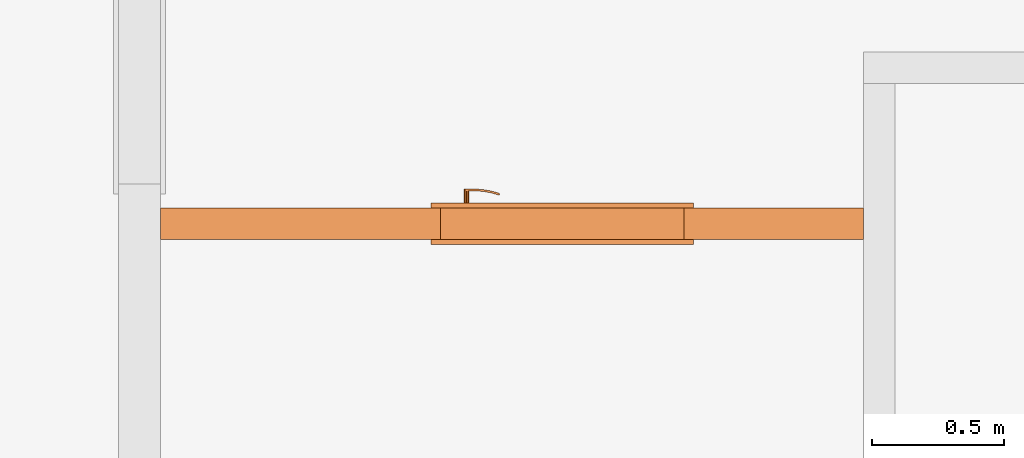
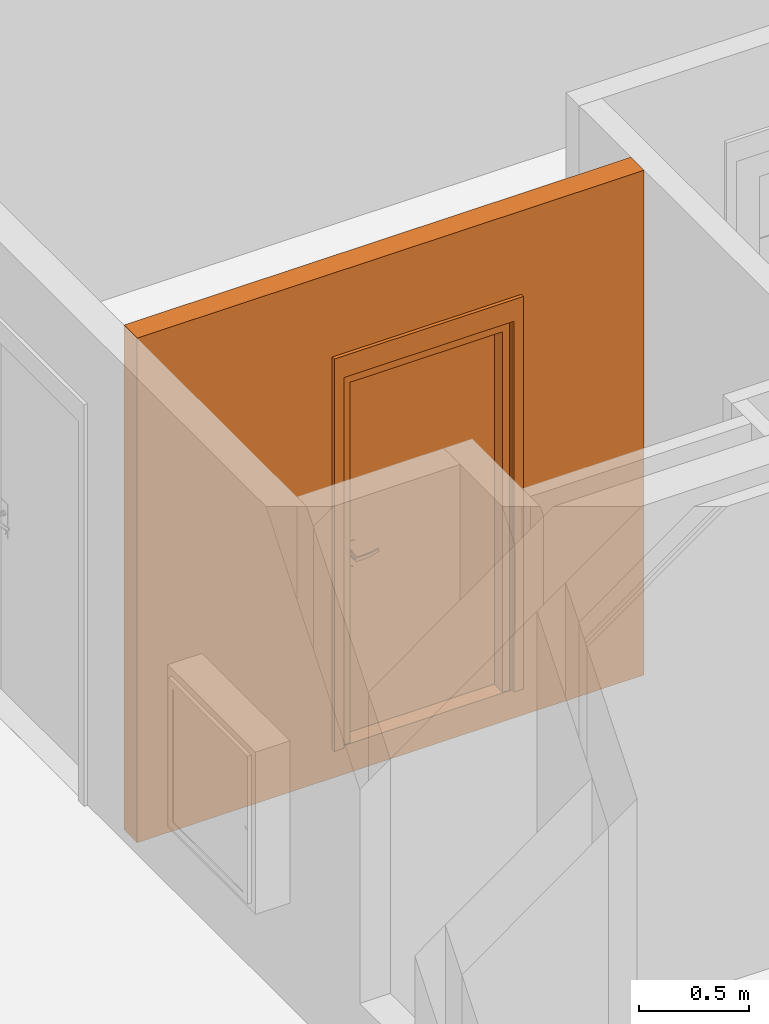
# One storey, part 30 of 64: 2 proxies, 1 opening.
"""IFC2X3 building model written with IfcOpenShell, lengths in millimetres."""

from ifc_helpers import new_model, entity, si_unit, converted_unit, derived_unit, money_unit, direction, frame, origin_with_axes, origin_2d_with_axis, place, context, subcontext, project, spatial, rectangle, extrude, open_shell, faceted_brep, surface_model, source, transform, mapped, material, type_object, element, fill, save


model = new_model("IFC2X3")

# Units and contexts
model_context = context("Model", 3, precision=0.01, world=origin_with_axes(), true_north=direction((0.34421633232, 0.938890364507)))
body_context = subcontext(model_context, "Body", "Model", "MODEL_VIEW")
ifc_project = project(units=[si_unit("LENGTHUNIT", "METRE", prefix="MILLI"), si_unit("AREAUNIT", "SQUARE_METRE"), si_unit("VOLUMEUNIT", "CUBIC_METRE"), converted_unit("PLANEANGLEUNIT", "DEGREE", entity("IfcPlaneAngleMeasure", 0.0174532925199), si_unit("PLANEANGLEUNIT", "RADIAN"), dimensions=[0, 0, 0, 0, 0, 0, 0]), si_unit("SOLIDANGLEUNIT", "STERADIAN"), money_unit("USD"), converted_unit("TIMEUNIT", "Year", entity("IfcTimeMeasure", 31556926.0), si_unit("TIMEUNIT", "SECOND"), dimensions=[0, 0, 1, 0, 0, 0, 0]), si_unit("MASSUNIT", "GRAM", prefix="KILO"), si_unit("THERMODYNAMICTEMPERATUREUNIT", "DEGREE_CELSIUS"), si_unit("LUMINOUSINTENSITYUNIT", "LUMEN"), si_unit("ENERGYUNIT", "JOULE", prefix="MEGA"), derived_unit("THERMALCONDUCTANCEUNIT", [(si_unit("POWERUNIT", "WATT"), 1), (si_unit("LENGTHUNIT", "METRE"), -1), (si_unit("THERMODYNAMICTEMPERATUREUNIT", "KELVIN"), -1)]), derived_unit("SPECIFICHEATCAPACITYUNIT", [(si_unit("ENERGYUNIT", "JOULE"), 1), (si_unit("MASSUNIT", "GRAM", prefix="KILO"), -1), (si_unit("THERMODYNAMICTEMPERATUREUNIT", "KELVIN"), -1)]), derived_unit("MASSDENSITYUNIT", [(si_unit("MASSUNIT", "GRAM", prefix="KILO"), 1), (si_unit("VOLUMEUNIT", "CUBIC_METRE"), -1)])], contexts=[model_context])

# Site, building, storey
site_placement = place(None, origin_with_axes())
site = spatial("IfcSite", under=ifc_project, at=site_placement, Name="USTRONIE MORSKIE", CompositionType="ELEMENT")
building_placement = place(site_placement, origin_with_axes())
building = spatial("IfcBuilding", under=site, at=building_placement, Name="Budynek", CompositionType="ELEMENT")
storey_placement = place(building_placement, frame((0.0, 0.0, 7000.0), z_axis=(0.0, 0.0, 1.0), x_axis=(1.0, 0.0, 0.0)))
storey = spatial("IfcBuildingStorey", under=building, at=storey_placement, Name="PIĘTRO 2", CompositionType="ELEMENT", Elevation=7000.0)

# Proxies, opening
ifc_material = material(Name="Bloczki silikatowe")
building_element_proxy_type_1 = type_object("IfcBuildingElementProxyType", Name="Bloczki silikatowe 120", PredefinedType="NOTDEFINED")
proxy_1_placement = place(storey_placement, frame((420917.920919, 729161.218596, -160.0), z_axis=(0.0, 0.0, 1.0), x_axis=(-1.0, 0.0, 0.0)))
proxy_1 = element("IfcBuildingElementProxy", 1, at=proxy_1_placement, inside=storey, type_object=building_element_proxy_type_1, material=ifc_material, Name="SW-04", context=body_context, shape_type="Brep", body=[
    faceted_brep([(2720.0, -59.9999999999, 2800.0), (2720.0, 59.9999999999, 2800.0), (60.0, 59.9999999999, 2800.0), (60.0, -59.9999999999, 2800.0), (2720.0, -59.9999999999, 0.0), (2720.0, 59.9999999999, 0.0), (60.0, 59.9999999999, 0.0), (60.0, -59.9999999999, 0.0)], [[[0, 1, 2, 3]], [[1, 0, 4, 5]], [[1, 5, 6, 2]], [[7, 3, 2, 6]], [[4, 0, 3, 7]], [[5, 4, 7, 6]]]),
])
opening_placement = place(proxy_1_placement, frame((1200.0, 0.0, 160.0), z_axis=(0.0, 0.0, 1.0), x_axis=(1.0, 0.0, 0.0)))
opening = element("IfcOpeningElement", 2, at=opening_placement, cuts=proxy_1, Name="Dw.4", context=body_context, shape_type="SweptSolid", body=[
    extrude(rectangle(XDim=920.0, YDim=2070.0, at=origin_2d_with_axis()), frame((0.0, 120.0, 1035.0), z_axis=(0.0, -1.0, 0.0), x_axis=(-1.0, 0.0, 0.0)), (0.0, 0.0, 1.0), 360.0),
    extrude(rectangle(XDim=994.0, YDim=2177.0, at=origin_2d_with_axis()), frame((0.0, 60.0000000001, 1088.5), z_axis=(0.0, -1.0, 0.0), x_axis=(-1.0, 0.0, 0.0)), (0.0, 0.0, -1.0), 120.0),
    extrude(rectangle(XDim=994.0, YDim=2177.0, at=origin_2d_with_axis()), frame((0.0, -59.9999999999, 1088.5), z_axis=(0.0, 1.0, 0.0), x_axis=(-1.0, 0.0, 0.0)), (0.0, 0.0, -1.0), 120.0),
])
building_element_proxy_type_2 = type_object("IfcBuildingElementProxyType", Name="Drzwi 23", PredefinedType="NOTDEFINED")
shared_shape = source(origin_with_axes(), body_context, "Body", "SurfaceModel", [
    faceted_brep([(-460.0, -115.0, 0.0), (-435.0, -115.0, 0.0), (-435.0, -120.0, 0.0), (-460.0, -120.0, 0.0), (-460.0, -115.0, 2070.0), (-435.0, -115.0, 2045.0), (-435.0, -120.0, 2045.0), (-460.0, -120.0, 2070.0)], [[[0, 1, 2, 3]], [[0, 4, 5, 1]], [[1, 5, 6, 2]], [[3, 2, 6, 7]], [[4, 0, 3, 7]], [[5, 4, 7, 6]]]),
    faceted_brep([(460.0, -115.0, 2070.0), (435.0, -115.0, 2045.0), (435.0, -120.0, 2045.0), (460.0, -120.0, 2070.0), (460.0, -115.0, 0.0), (435.0, -115.0, 0.0), (435.0, -120.0, 0.0), (460.0, -120.0, 0.0)], [[[0, 1, 2, 3]], [[0, 4, 5, 1]], [[1, 5, 6, 2]], [[3, 2, 6, 7]], [[4, 0, 3, 7]], [[5, 4, 7, 6]]]),
    faceted_brep([(-435.0, -115.0, 2045.0), (435.0, -115.0, 2045.0), (435.0, -120.0, 2045.0), (-435.0, -120.0, 2045.0), (-460.0, -115.0, 2070.0), (460.0, -115.0, 2070.0), (460.0, -120.0, 2070.0), (-460.0, -120.0, 2070.0)], [[[0, 1, 2, 3]], [[0, 4, 5, 1]], [[1, 5, 6, 2]], [[3, 2, 6, 7]], [[4, 0, 3, 7]], [[5, 4, 7, 6]]]),
    faceted_brep([(-497.0, -139.0, 0.0), (-497.0, -120.0, 0.0), (-447.0, -120.0, 0.0), (-447.0, -139.0, 0.0), (-497.0, -139.0, 2177.0), (-497.0, -120.0, 2177.0), (-447.0, -120.0, 2057.0), (-447.0, -139.0, 2057.0)], [[[0, 1, 2, 3]], [[4, 5, 1, 0]], [[1, 5, 6, 2]], [[3, 2, 6, 7]], [[0, 3, 7, 4]], [[7, 6, 5, 4]]]),
    faceted_brep([(497.0, -139.0, 2177.0), (497.0, -120.0, 2177.0), (447.0, -120.0, 2057.0), (447.0, -139.0, 2057.0), (497.0, -139.0, 0.0), (497.0, -120.0, 0.0), (447.0, -120.0, 0.0), (447.0, -139.0, 0.0)], [[[0, 1, 2, 3]], [[4, 5, 1, 0]], [[1, 5, 6, 2]], [[3, 2, 6, 7]], [[0, 3, 7, 4]], [[7, 6, 5, 4]]]),
    faceted_brep([(-497.0, -139.0, 2177.0), (-497.0, -120.0, 2177.0), (-447.0, -120.0, 2057.0), (-447.0, -139.0, 2057.0), (497.0, -139.0, 2177.0), (497.0, -120.0, 2177.0), (447.0, -120.0, 2057.0), (447.0, -139.0, 2057.0)], [[[0, 1, 2, 3]], [[4, 5, 1, 0]], [[1, 5, 6, 2]], [[3, 2, 6, 7]], [[0, 3, 7, 4]], [[7, 6, 5, 4]]]),
    faceted_brep([(-497.0, 19.0, 0.0), (-447.0, 19.0, 0.0), (-447.0, 0.0, 0.0), (-497.0, 0.0, 0.0), (-497.0, 19.0, 2177.0), (-447.0, 19.0, 2057.0), (-447.0, 0.0, 2057.0), (-497.0, 0.0, 2177.0)], [[[0, 1, 2, 3]], [[0, 4, 5, 1]], [[1, 5, 6, 2]], [[3, 2, 6, 7]], [[4, 0, 3, 7]], [[5, 4, 7, 6]]]),
    faceted_brep([(497.0, 19.0, 2177.0), (447.0, 19.0, 2057.0), (447.0, 0.0, 2057.0), (497.0, 0.0, 2177.0), (497.0, 19.0, 0.0), (447.0, 19.0, 0.0), (447.0, 0.0, 0.0), (497.0, 0.0, 0.0)], [[[0, 1, 2, 3]], [[0, 4, 5, 1]], [[1, 5, 6, 2]], [[3, 2, 6, 7]], [[4, 0, 3, 7]], [[5, 4, 7, 6]]]),
    faceted_brep([(-497.0, 19.0, 2177.0), (-447.0, 19.0, 2057.0), (-447.0, 0.0, 2057.0), (-497.0, 0.0, 2177.0), (497.0, 19.0, 2177.0), (447.0, 19.0, 2057.0), (447.0, 0.0, 2057.0), (497.0, 0.0, 2177.0)], [[[0, 1, 2, 3]], [[0, 4, 5, 1]], [[1, 5, 6, 2]], [[3, 2, 6, 7]], [[4, 0, 3, 7]], [[5, 4, 7, 6]]]),
    faceted_brep([(-400.0, -40.0, 0.0), (-400.0, -40.0, 2000.0), (-400.0, -115.0, 2000.0), (-400.0, -115.0, 0.0), (-412.0, -40.0, 2000.0), (-412.0, -40.0, 0.0), (-412.0, 0.0, 2000.0), (-460.0, 0.0, 2000.0), (-460.0, -115.0, 2000.0), (-460.0, -115.0, 0.0), (-460.0, 0.0, 0.0), (-412.0, 0.0, 0.0)], [[[0, 1, 2, 3]], [[4, 1, 0, 5]], [[4, 6, 7, 8, 2, 1]], [[3, 2, 8, 9]], [[5, 0, 3, 9, 10, 11]], [[6, 4, 5, 11]], [[6, 11, 10, 7]], [[10, 9, 8, 7]]]),
    faceted_brep([(412.0, -40.0, 2000.0), (400.0, -40.0, 2000.0), (400.0, -115.0, 2000.0), (460.0, -115.0, 2000.0), (460.0, 0.0, 2000.0), (412.0, 0.0, 2000.0), (412.0, -40.0, 0.0), (400.0, -40.0, 0.0), (400.0, -115.0, 0.0), (460.0, -115.0, 0.0), (460.0, 0.0, 0.0), (412.0, 0.0, 0.0)], [[[0, 1, 2, 3, 4, 5]], [[1, 0, 6, 7]], [[1, 7, 8, 2]], [[3, 2, 8, 9]], [[4, 3, 9, 10]], [[11, 5, 4, 10]], [[0, 5, 11, 6]], [[6, 11, 10, 9, 8, 7]]]),
    faceted_brep([(-412.0, 0.0, 2012.0), (-412.0, 0.0, 2000.0), (-460.0, 0.0, 2000.0), (-460.0, 0.0, 2070.0), (460.0, 0.0, 2070.0), (460.0, 0.0, 2000.0), (412.0, 0.0, 2000.0), (412.0, 0.0, 2012.0), (-412.0, -40.0, 2012.0), (-412.0, -40.0, 2000.0), (-400.0, -40.0, 2000.0), (-400.0, -115.0, 2000.0), (-460.0, -115.0, 2000.0), (-460.0, -115.0, 2070.0), (460.0, -115.0, 2070.0), (460.0, -115.0, 2000.0), (412.0, -40.0, 2000.0), (400.0, -115.0, 2000.0), (400.0, -40.0, 2000.0), (412.0, -40.0, 2012.0)], [[[0, 1, 2, 3, 4, 5, 6, 7]], [[1, 0, 8, 9]], [[9, 10, 11, 12, 2, 1]], [[2, 12, 13, 3]], [[3, 13, 14, 4]], [[4, 14, 15, 5]], [[16, 6, 5, 15, 17, 18]], [[7, 6, 16, 19]], [[0, 7, 19, 8]], [[16, 18, 10, 9, 8, 19]], [[10, 18, 17, 11]], [[17, 15, 14, 13, 12, 11]]]),
    faceted_brep([(-390.5, -40.0, 1060.0), (-390.5, -43.0, 1060.0), (-333.5, -43.0, 1060.0), (-333.5, -40.0, 1060.0), (-390.5, -40.0, 870.0), (-390.5, -43.0, 870.0), (-333.5, -43.0, 870.0), (-333.5, -40.0, 870.0)], [[[0, 1, 2, 3]], [[4, 5, 1, 0]], [[1, 5, 6, 2]], [[3, 2, 6, 7]], [[0, 3, 7, 4]], [[7, 6, 5, 4]]]),
    faceted_brep([(-362.0, -104.0, 990.0), (-362.0, -111.0, 990.0), (-367.0, -111.0, 991.339745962), (-367.0, -104.0, 991.339745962), (-337.0, -104.0, 990.0), (-337.0, -111.0, 990.0), (-337.0, -111.0, 1010.0), (-362.0, -111.0, 1010.0), (-367.0, -111.0, 1008.66025404), (-370.660254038, -111.0, 1005.0), (-372.0, -111.0, 1000.0), (-370.660254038, -111.0, 995.0), (-370.660254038, -104.0, 995.0), (-372.0, -104.0, 1000.0), (-370.660254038, -104.0, 1005.0), (-367.0, -104.0, 1008.66025404), (-362.0, -104.0, 1010.0), (-337.0, -104.0, 1010.0)], [[[0, 1, 2, 3]], [[4, 5, 1, 0]], [[1, 5, 6, 7, 8, 9, 10, 11, 2]], [[3, 2, 11, 12]], [[0, 3, 12, 13, 14, 15, 16, 17, 4]], [[17, 6, 5, 4]], [[16, 7, 6, 17]], [[15, 8, 7, 16]], [[14, 9, 8, 15]], [[13, 10, 9, 14]], [[12, 11, 10, 13]]]),
    surface_model("IfcShellBasedSurfaceModel", [(-337.0, -104.0, 1010.0), (-323.596090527, -111.0, 1009.60730092), (-323.901717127, -104.0, 1009.60730092), (-337.0, -111.0, 1010.0), (-296.890283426, -108.663544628, 1008.82190275), (-323.901717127, -104.0, 990.392699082), (-337.0, -104.0, 990.0), (-337.0, -111.0, 990.0), (-323.596090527, -111.0, 990.392699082), (-296.890283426, -108.663544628, 991.178097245), (-297.804837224, -101.716818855, 1008.82190275), (-297.804837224, -101.716818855, 991.178097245), (-270.489735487, -104.008415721, 991.963495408), (-270.489735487, -104.008415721, 1008.03650459), (-272.006256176, -97.1678329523, 1008.03650459), (-272.006256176, -97.1678329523, 991.963495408), (-244.59537082, -97.0700416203, 992.748893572), (-244.59537082, -97.0700416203, 1007.25110643), (-246.702316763, -90.3876628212, 1007.25110643), (-246.702316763, -90.3876628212, 992.748893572), (-236.538795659, -94.1376880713, 993.0), (-236.538795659, -94.1376880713, 1007.0), (-238.829442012, -87.5221707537, 1007.0), (-238.829442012, -87.5221707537, 993.0)], [open_shell([[[0, 1, 2]], [[0, 3, 1]], [[2, 1, 4]], [[0, 2, 5, 6]], [[3, 7, 8, 1]], [[1, 8, 9, 4]], [[2, 4, 10]], [[2, 10, 11, 5]], [[5, 7, 6]], [[5, 8, 7]], [[11, 9, 8]], [[4, 9, 12, 13]], [[10, 4, 13]], [[10, 14, 15, 11]], [[11, 8, 5]], [[15, 9, 11]], [[15, 12, 9]], [[13, 12, 16, 17]], [[10, 13, 14]], [[14, 18, 19, 15]], [[19, 12, 15]], [[19, 16, 12]], [[17, 16, 20, 21]], [[14, 13, 17]], [[14, 17, 18]], [[18, 22, 23, 19]], [[23, 16, 19]], [[23, 20, 16]], [[22, 21, 20, 23]], [[18, 17, 21]], [[18, 21, 22]]])]),
    faceted_brep([(-351.607695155, -53.0, 994.0), (-350.741669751, -43.0, 993.5), (-349.0, -43.0, 1000.0), (-350.0, -53.0, 1000.0), (-356.0, -53.0, 989.607695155), (-355.5, -43.0, 988.741669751), (-362.0, -43.0, 987.0), (-368.5, -43.0, 988.741669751), (-373.258330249, -43.0, 993.5), (-375.0, -43.0, 1000.0), (-373.258330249, -43.0, 1006.5), (-368.5, -43.0, 1011.25833025), (-362.0, -43.0, 1013.0), (-355.5, -43.0, 1011.25833025), (-350.741669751, -43.0, 1006.5), (-351.607695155, -53.0, 1006.0), (-356.0, -53.0, 1010.39230485), (-362.0, -53.0, 1012.0), (-368.0, -53.0, 1010.39230485), (-372.392304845, -53.0, 1006.0), (-374.0, -53.0, 1000.0), (-372.392304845, -53.0, 994.0), (-368.0, -53.0, 989.607695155), (-362.0, -53.0, 988.0)], [[[0, 1, 2, 3]], [[4, 5, 1, 0]], [[2, 1, 5, 6, 7, 8, 9, 10, 11, 12, 13, 14]], [[3, 2, 14, 15]], [[3, 15, 16, 17, 18, 19, 20, 21, 22, 23, 4, 0]], [[23, 6, 5, 4]], [[22, 7, 6, 23]], [[21, 8, 7, 22]], [[20, 9, 8, 21]], [[19, 10, 9, 20]], [[18, 11, 10, 19]], [[17, 12, 11, 18]], [[16, 13, 12, 17]], [[15, 14, 13, 16]]]),
    faceted_brep([(-344.679491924, -47.0, 895.0), (-342.947441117, -43.0, 894.0), (-340.0, -43.0, 905.0), (-342.0, -47.0, 905.0), (-352.0, -47.0, 887.679491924), (-351.0, -43.0, 885.947441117), (-362.0, -43.0, 883.0), (-373.0, -43.0, 885.947441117), (-381.052558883, -43.0, 894.0), (-384.0, -43.0, 905.0), (-381.052558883, -43.0, 916.0), (-373.0, -43.0, 924.052558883), (-362.0, -43.0, 927.0), (-351.0, -43.0, 924.052558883), (-342.947441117, -43.0, 916.0), (-344.679491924, -47.0, 915.0), (-352.0, -47.0, 922.320508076), (-362.0, -47.0, 925.0), (-372.0, -47.0, 922.320508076), (-379.320508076, -47.0, 915.0), (-382.0, -47.0, 905.0), (-379.320508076, -47.0, 895.0), (-372.0, -47.0, 887.679491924), (-362.0, -47.0, 885.0)], [[[0, 1, 2, 3]], [[4, 5, 1, 0]], [[2, 1, 5, 6, 7, 8, 9, 10, 11, 12, 13, 14]], [[3, 2, 14, 15]], [[3, 15, 16, 17, 18, 19, 20, 21, 22, 23, 4, 0]], [[23, 6, 5, 4]], [[22, 7, 6, 23]], [[21, 8, 7, 22]], [[20, 9, 8, 21]], [[19, 10, 9, 20]], [[18, 11, 10, 19]], [[17, 12, 11, 18]], [[16, 13, 12, 17]], [[15, 14, 13, 16]]]),
    faceted_brep([(-357.050252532, -49.0, 909.050252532), (-356.343145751, -47.0, 908.343145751), (-354.0, -47.0, 914.0), (-355.0, -49.0, 914.0), (-362.0, -49.0, 907.0), (-362.0, -47.0, 906.0), (-367.656854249, -47.0, 908.343145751), (-370.0, -47.0, 914.0), (-367.656854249, -47.0, 919.656854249), (-362.0, -47.0, 922.0), (-356.343145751, -47.0, 919.656854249), (-357.050252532, -49.0, 918.949747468), (-362.0, -49.0, 921.0), (-366.949747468, -49.0, 918.949747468), (-369.0, -49.0, 914.0), (-366.949747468, -49.0, 909.050252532)], [[[0, 1, 2, 3]], [[4, 5, 1, 0]], [[2, 1, 5, 6, 7, 8, 9, 10]], [[3, 2, 10, 11]], [[3, 11, 12, 13, 14, 15, 4, 0]], [[15, 6, 5, 4]], [[14, 7, 6, 15]], [[13, 8, 7, 14]], [[12, 9, 8, 13]], [[11, 10, 9, 12]]]),
    faceted_brep([(-362.0, -53.0, 1010.0), (-362.0, -104.0, 1010.0), (-357.0, -104.0, 1008.66025404), (-357.0, -53.0, 1008.66025404), (-367.0, -53.0, 1008.66025404), (-367.0, -104.0, 1008.66025404), (-370.660254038, -104.0, 1005.0), (-372.0, -104.0, 1000.0), (-370.660254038, -104.0, 995.0), (-367.0, -104.0, 991.339745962), (-362.0, -104.0, 990.0), (-357.0, -104.0, 991.339745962), (-353.339745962, -104.0, 995.0), (-352.0, -104.0, 1000.0), (-353.339745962, -104.0, 1005.0), (-353.339745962, -53.0, 1005.0), (-352.0, -53.0, 1000.0), (-353.339745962, -53.0, 995.0), (-357.0, -53.0, 991.339745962), (-362.0, -53.0, 990.0), (-367.0, -53.0, 991.339745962), (-370.660254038, -53.0, 995.0), (-372.0, -53.0, 1000.0), (-370.660254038, -53.0, 1005.0)], [[[0, 1, 2, 3]], [[4, 5, 1, 0]], [[1, 5, 6, 7, 8, 9, 10, 11, 12, 13, 14, 2]], [[3, 2, 14, 15]], [[0, 3, 15, 16, 17, 18, 19, 20, 21, 22, 23, 4]], [[23, 6, 5, 4]], [[22, 7, 6, 23]], [[21, 8, 7, 22]], [[20, 9, 8, 21]], [[19, 10, 9, 20]], [[18, 11, 10, 19]], [[17, 12, 11, 18]], [[16, 13, 12, 17]], [[15, 14, 13, 16]]]),
    faceted_brep([(-390.5, 0.0, 1060.0), (-333.5, 0.0, 1060.0), (-333.5, 3.0, 1060.0), (-390.5, 3.0, 1060.0), (-390.5, 0.0, 870.0), (-333.5, 0.0, 870.0), (-333.5, 3.0, 870.0), (-390.5, 3.0, 870.0)], [[[0, 1, 2, 3]], [[0, 4, 5, 1]], [[1, 5, 6, 2]], [[3, 2, 6, 7]], [[4, 0, 3, 7]], [[5, 4, 7, 6]]]),
    faceted_brep([(-362.0, 64.0, 990.0), (-367.0, 64.0, 991.339745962), (-367.0, 71.0, 991.339745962), (-362.0, 71.0, 990.0), (-337.0, 64.0, 990.0), (-337.0, 64.0, 1010.0), (-362.0, 64.0, 1010.0), (-367.0, 64.0, 1008.66025404), (-370.660254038, 64.0, 1005.0), (-372.0, 64.0, 1000.0), (-370.660254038, 64.0, 995.0), (-370.660254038, 71.0, 995.0), (-372.0, 71.0, 1000.0), (-370.660254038, 71.0, 1005.0), (-367.0, 71.0, 1008.66025404), (-362.0, 71.0, 1010.0), (-337.0, 71.0, 1010.0), (-337.0, 71.0, 990.0)], [[[0, 1, 2, 3]], [[0, 4, 5, 6, 7, 8, 9, 10, 1]], [[1, 10, 11, 2]], [[3, 2, 11, 12, 13, 14, 15, 16, 17]], [[4, 0, 3, 17]], [[5, 4, 17, 16]], [[6, 5, 16, 15]], [[7, 6, 15, 14]], [[8, 7, 14, 13]], [[9, 8, 13, 12]], [[10, 9, 12, 11]]]),
    surface_model("IfcShellBasedSurfaceModel", [(-337.0, 64.0, 1010.0), (-323.901717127, 64.0, 1009.60730092), (-323.596090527, 71.0, 1009.60730092), (-337.0, 64.0, 990.0), (-323.901717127, 64.0, 990.392699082), (-296.890283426, 68.6635446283, 1008.82190275), (-337.0, 71.0, 1010.0), (-337.0, 71.0, 990.0), (-297.804837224, 61.716818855, 991.178097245), (-297.804837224, 61.716818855, 1008.82190275), (-296.890283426, 68.6635446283, 991.178097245), (-323.596090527, 71.0, 990.392699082), (-272.006256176, 57.1678329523, 991.963495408), (-272.006256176, 57.1678329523, 1008.03650459), (-270.489735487, 64.0084157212, 1008.03650459), (-270.489735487, 64.0084157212, 991.963495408), (-246.702316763, 50.3876628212, 992.748893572), (-246.702316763, 50.3876628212, 1007.25110643), (-244.59537082, 57.0700416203, 1007.25110643), (-244.59537082, 57.0700416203, 992.748893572), (-238.829442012, 47.5221707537, 993.0), (-238.829442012, 47.5221707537, 1007.0), (-236.538795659, 54.1376880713, 1007.0), (-236.538795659, 54.1376880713, 993.0)], [open_shell([[[0, 1, 2]], [[0, 3, 4, 1]], [[1, 5, 2]], [[0, 2, 6]], [[4, 3, 7]], [[1, 4, 8, 9]], [[1, 9, 5]], [[2, 5, 10, 11]], [[6, 2, 11, 7]], [[4, 7, 11]], [[8, 4, 11]], [[9, 8, 12, 13]], [[9, 14, 5]], [[5, 14, 15, 10]], [[8, 11, 10]], [[12, 8, 10]], [[13, 12, 16, 17]], [[9, 13, 14]], [[14, 18, 19, 15]], [[12, 10, 15]], [[16, 12, 15]], [[17, 16, 20, 21]], [[13, 17, 18]], [[13, 18, 14]], [[18, 22, 23, 19]], [[16, 15, 19]], [[20, 16, 19]], [[21, 20, 23, 22]], [[17, 21, 22]], [[17, 22, 18]], [[20, 19, 23]]])]),
    faceted_brep([(-351.607695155, 13.0, 994.0), (-350.0, 13.0, 1000.0), (-349.0, 3.0, 1000.0), (-350.741669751, 3.0, 993.5), (-356.0, 13.0, 989.607695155), (-362.0, 13.0, 988.0), (-368.0, 13.0, 989.607695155), (-372.392304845, 13.0, 994.0), (-374.0, 13.0, 1000.0), (-372.392304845, 13.0, 1006.0), (-368.0, 13.0, 1010.39230485), (-362.0, 13.0, 1012.0), (-356.0, 13.0, 1010.39230485), (-351.607695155, 13.0, 1006.0), (-350.741669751, 3.0, 1006.5), (-355.5, 3.0, 1011.25833025), (-362.0, 3.0, 1013.0), (-368.5, 3.0, 1011.25833025), (-373.258330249, 3.0, 1006.5), (-375.0, 3.0, 1000.0), (-373.258330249, 3.0, 993.5), (-368.5, 3.0, 988.741669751), (-362.0, 3.0, 987.0), (-355.5, 3.0, 988.741669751)], [[[0, 1, 2, 3]], [[1, 0, 4, 5, 6, 7, 8, 9, 10, 11, 12, 13]], [[1, 13, 14, 2]], [[2, 14, 15, 16, 17, 18, 19, 20, 21, 22, 23, 3]], [[4, 0, 3, 23]], [[5, 4, 23, 22]], [[6, 5, 22, 21]], [[7, 6, 21, 20]], [[8, 7, 20, 19]], [[9, 8, 19, 18]], [[10, 9, 18, 17]], [[11, 10, 17, 16]], [[12, 11, 16, 15]], [[13, 12, 15, 14]]]),
    faceted_brep([(-344.679491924, 7.0, 895.0), (-342.0, 7.0, 905.0), (-340.0, 3.0, 905.0), (-342.947441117, 3.0, 894.0), (-352.0, 7.0, 887.679491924), (-362.0, 7.0, 885.0), (-372.0, 7.0, 887.679491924), (-379.320508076, 7.0, 895.0), (-382.0, 7.0, 905.0), (-379.320508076, 7.0, 915.0), (-372.0, 7.0, 922.320508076), (-362.0, 7.0, 925.0), (-352.0, 7.0, 922.320508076), (-344.679491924, 7.0, 915.0), (-342.947441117, 3.0, 916.0), (-351.0, 3.0, 924.052558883), (-362.0, 3.0, 927.0), (-373.0, 3.0, 924.052558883), (-381.052558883, 3.0, 916.0), (-384.0, 3.0, 905.0), (-381.052558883, 3.0, 894.0), (-373.0, 3.0, 885.947441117), (-362.0, 3.0, 883.0), (-351.0, 3.0, 885.947441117)], [[[0, 1, 2, 3]], [[1, 0, 4, 5, 6, 7, 8, 9, 10, 11, 12, 13]], [[1, 13, 14, 2]], [[2, 14, 15, 16, 17, 18, 19, 20, 21, 22, 23, 3]], [[4, 0, 3, 23]], [[5, 4, 23, 22]], [[6, 5, 22, 21]], [[7, 6, 21, 20]], [[8, 7, 20, 19]], [[9, 8, 19, 18]], [[10, 9, 18, 17]], [[11, 10, 17, 16]], [[12, 11, 16, 15]], [[13, 12, 15, 14]]]),
    faceted_brep([(-357.050252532, 9.0, 909.050252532), (-355.0, 9.0, 914.0), (-354.0, 7.0, 914.0), (-356.343145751, 7.0, 908.343145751), (-362.0, 9.0, 907.0), (-366.949747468, 9.0, 909.050252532), (-369.0, 9.0, 914.0), (-366.949747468, 9.0, 918.949747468), (-362.0, 9.0, 921.0), (-357.050252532, 9.0, 918.949747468), (-356.343145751, 7.0, 919.656854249), (-362.0, 7.0, 922.0), (-367.656854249, 7.0, 919.656854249), (-370.0, 7.0, 914.0), (-367.656854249, 7.0, 908.343145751), (-362.0, 7.0, 906.0)], [[[0, 1, 2, 3]], [[1, 0, 4, 5, 6, 7, 8, 9]], [[1, 9, 10, 2]], [[2, 10, 11, 12, 13, 14, 15, 3]], [[4, 0, 3, 15]], [[5, 4, 15, 14]], [[6, 5, 14, 13]], [[7, 6, 13, 12]], [[8, 7, 12, 11]], [[9, 8, 11, 10]]]),
    faceted_brep([(-362.0, 13.0, 1010.0), (-357.0, 13.0, 1008.66025404), (-357.0, 64.0, 1008.66025404), (-362.0, 64.0, 1010.0), (-367.0, 13.0, 1008.66025404), (-370.660254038, 13.0, 1005.0), (-372.0, 13.0, 1000.0), (-370.660254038, 13.0, 995.0), (-367.0, 13.0, 991.339745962), (-362.0, 13.0, 990.0), (-357.0, 13.0, 991.339745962), (-353.339745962, 13.0, 995.0), (-352.0, 13.0, 1000.0), (-353.339745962, 13.0, 1005.0), (-353.339745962, 64.0, 1005.0), (-352.0, 64.0, 1000.0), (-353.339745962, 64.0, 995.0), (-357.0, 64.0, 991.339745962), (-362.0, 64.0, 990.0), (-367.0, 64.0, 991.339745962), (-370.660254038, 64.0, 995.0), (-372.0, 64.0, 1000.0), (-370.660254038, 64.0, 1005.0), (-367.0, 64.0, 1008.66025404)], [[[0, 1, 2, 3]], [[0, 4, 5, 6, 7, 8, 9, 10, 11, 12, 13, 1]], [[1, 13, 14, 2]], [[3, 2, 14, 15, 16, 17, 18, 19, 20, 21, 22, 23]], [[4, 0, 3, 23]], [[5, 4, 23, 22]], [[6, 5, 22, 21]], [[7, 6, 21, 20]], [[8, 7, 20, 19]], [[9, 8, 19, 18]], [[10, 9, 18, 17]], [[11, 10, 17, 16]], [[12, 11, 16, 15]], [[13, 12, 15, 14]]]),
    faceted_brep([(412.0, 0.0, 0.0), (412.0, -40.0, 0.0), (-412.0, -40.0, 0.0), (-412.0, 0.0, 0.0), (412.0, 0.0, 2012.0), (412.0, -40.0, 2012.0), (-412.0, -40.0, 2012.0), (-412.0, 0.0, 2012.0)], [[[0, 1, 2, 3]], [[4, 5, 1, 0]], [[1, 5, 6, 2]], [[3, 2, 6, 7]], [[0, 3, 7, 4]], [[7, 6, 5, 4]]]),
])
proxy_2_placement = place(opening_placement, frame((400.0, 0.0, 0.0), z_axis=(0.0, 0.0, 1.0), x_axis=(-1.0, 0.0, 0.0)))
proxy_2 = element("IfcBuildingElementProxy", 3, at=proxy_2_placement, inside=storey, type_object=building_element_proxy_type_2, Name="Dw.4", context=body_context, shape_type="MappedRepresentation", body=[
    mapped(shared_shape, transform((400.0, 59.9999999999, 0.0))),
])
fill(opening, proxy_2)

save(model, "model.ifc")
